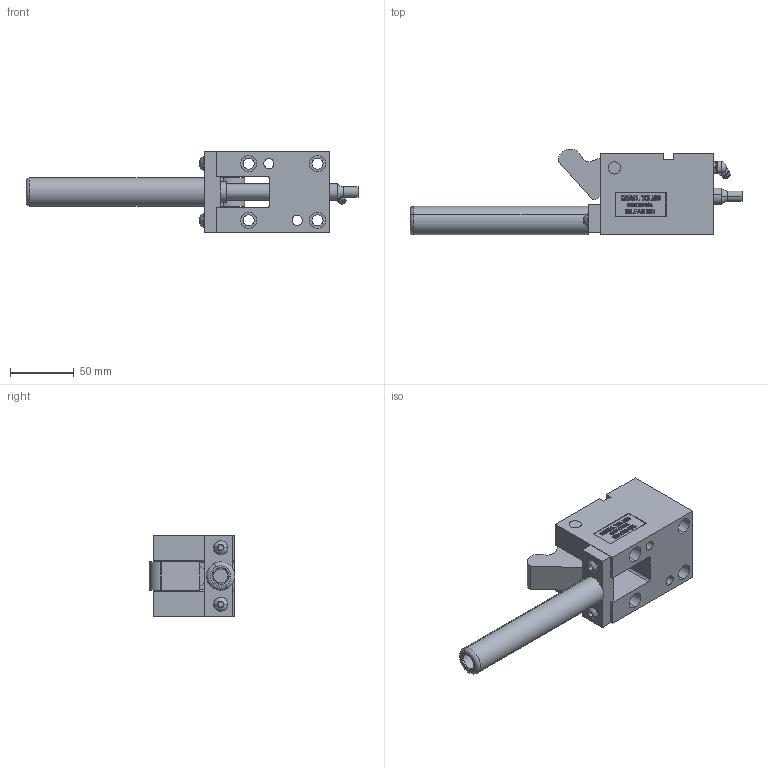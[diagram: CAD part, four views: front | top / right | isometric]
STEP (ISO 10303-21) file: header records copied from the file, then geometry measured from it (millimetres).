
FILE_DESCRIPTION (( 'STEP AP214' ), '1' );
FILE_NAME ('TOL50045-O.STEP', '2014-01-05T22:42:57', ( 'user' ), ( '' ), 'SwSTEP 2.0', 'SolidWorks 2009', '' );
FILE_SCHEMA (( 'AUTOMOTIVE_DESIGN' ));
Length unit declared in the file: inch
Products named in the file (10): 1-4 SCREW; 500-OFFSET TRIGGER; 500-O-STRAP; TOL50045-O; GREASE ZERK; TOL500-BODY; 500 PIVOT PIN; O-500-POINT; OL500-PUNCH; OL500-CAGE
Assembly tree (10 placements, depth 2):
  TOL50045-O
    GREASE ZERK
    O-500-POINT
    500-OFFSET TRIGGER
    500-O-STRAP
    OL500-CAGE
    500 PIVOT PIN
    1-4 SCREW  x2
    OL500-PUNCH
    TOL500-BODY
Bounding box: 260.22 x 67.08 x 63.5 mm (x, y, z)
Volume: 324543.7 mm3; surface area: 87103.3 mm2
Topology: 10 solids, 10 shells, 582 faces, 1496 edges, 984 vertices
Faces by surface type: plane 340, bspline 96, cylinder 94, cone 26, torus 22, sphere 4
Entity records: 23316 total; most frequent: CARTESIAN_POINT 9770, ORIENTED_EDGE 2904, DIRECTION 2360, EDGE_CURVE 1452, VERTEX_POINT 958, VECTOR 950, LINE 950, AXIS2_PLACEMENT_3D 705
